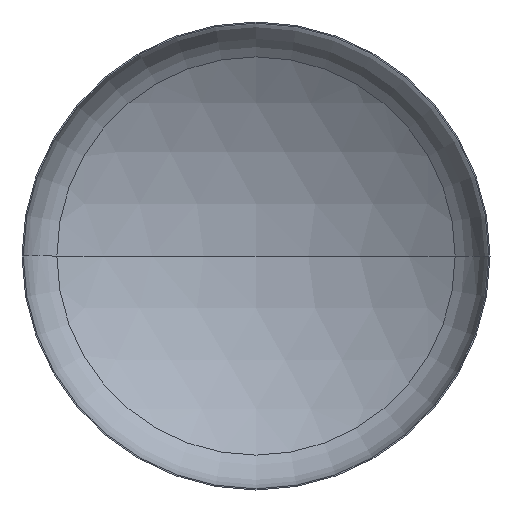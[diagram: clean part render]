
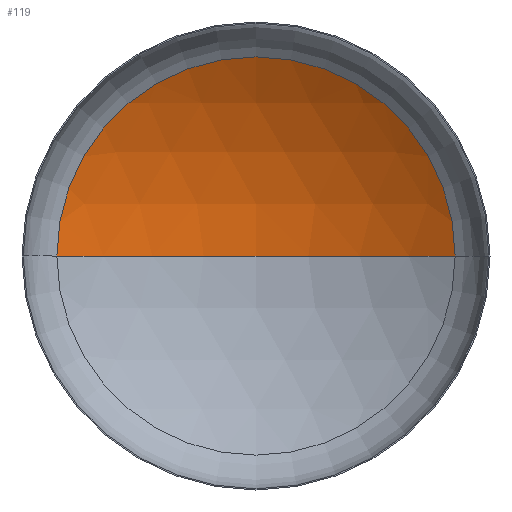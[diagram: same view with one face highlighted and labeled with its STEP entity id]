
A CAD part, front view. The second image highlights one B-rep face of the part: STEP entity #119.
In plain terms, the highlighted spherical face has radius 4400 mm.
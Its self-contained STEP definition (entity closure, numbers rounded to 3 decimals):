
#13 = DIRECTION ( 'NONE',  ( 0., -1., 0. ) ) ;
#30 = CARTESIAN_POINT ( 'NONE',  ( 0., -2965.34, 0. ) ) ;
#31 = AXIS2_PLACEMENT_3D ( 'NONE', #48, #120, #341 ) ;
#34 = AXIS2_PLACEMENT_3D ( 'NONE', #30, #149, #334 ) ;
#38 = AXIS2_PLACEMENT_3D ( 'NONE', #84, #311, #122 ) ;
#45 = AXIS2_PLACEMENT_3D ( 'NONE', #213, #13, #246 ) ;
#47 = VERTEX_POINT ( 'NONE', #206 ) ;
#48 = CARTESIAN_POINT ( 'NONE',  ( 0., -2965.34, 0. ) ) ;
#84 = CARTESIAN_POINT ( 'NONE',  ( 0., -2965.34, 0. ) ) ;
#97 = SPHERICAL_SURFACE ( 'NONE', #31, 4400. ) ;
#112 = EDGE_CURVE ( 'NONE', #47, #348, #342, .T. ) ;
#118 = EDGE_CURVE ( 'NONE', #224, #47, #257, .T. ) ;
#119 = ADVANCED_FACE ( 'NONE', ( #177 ), #97, .F. ) ;
#120 = DIRECTION ( 'NONE',  ( 0., 0., -1. ) ) ;
#122 = DIRECTION ( 'NONE',  ( -1., 0., 0. ) ) ;
#123 = EDGE_CURVE ( 'NONE', #224, #348, #404, .T. ) ;
#149 = DIRECTION ( 'NONE',  ( 0., 0., 1. ) ) ;
#157 = CARTESIAN_POINT ( 'NONE',  ( -2340.478, 760.538, 0. ) ) ;
#177 = FACE_OUTER_BOUND ( 'NONE', #195, .T. ) ;
#181 = ORIENTED_EDGE ( 'NONE', *, *, #123, .F. ) ;
#195 = EDGE_LOOP ( 'NONE', ( #181, #295, #237 ) ) ;
#206 = CARTESIAN_POINT ( 'NONE',  ( 2340.478, 760.538, 0. ) ) ;
#213 = CARTESIAN_POINT ( 'NONE',  ( 0., 760.538, 0. ) ) ;
#224 = VERTEX_POINT ( 'NONE', #383 ) ;
#237 = ORIENTED_EDGE ( 'NONE', *, *, #112, .T. ) ;
#246 = DIRECTION ( 'NONE',  ( 1., 0., 0. ) ) ;
#257 = CIRCLE ( 'NONE', #38, 4400. ) ;
#295 = ORIENTED_EDGE ( 'NONE', *, *, #118, .T. ) ;
#311 = DIRECTION ( 'NONE',  ( 0., 0., -1. ) ) ;
#334 = DIRECTION ( 'NONE',  ( 1., 0., 0. ) ) ;
#341 = DIRECTION ( 'NONE',  ( -1., 0., 0. ) ) ;
#342 = CIRCLE ( 'NONE', #45, 2340.478 ) ;
#348 = VERTEX_POINT ( 'NONE', #157 ) ;
#383 = CARTESIAN_POINT ( 'NONE',  ( 0., 1434.66, 0. ) ) ;
#404 = CIRCLE ( 'NONE', #34, 4400. ) ;
